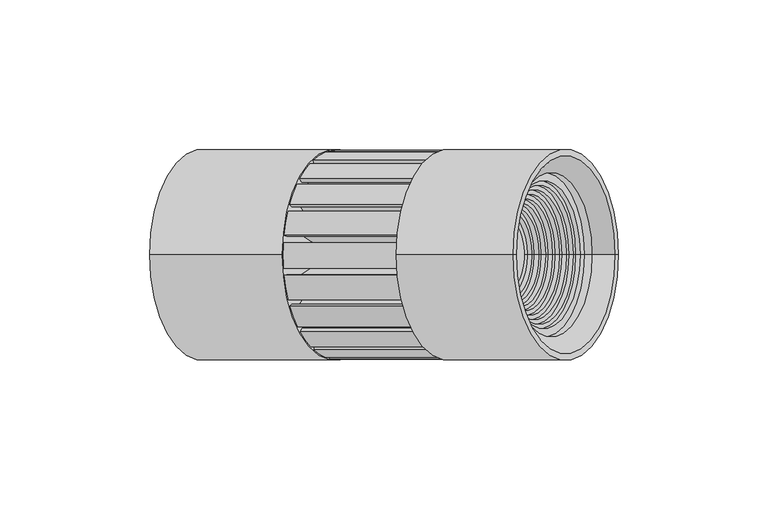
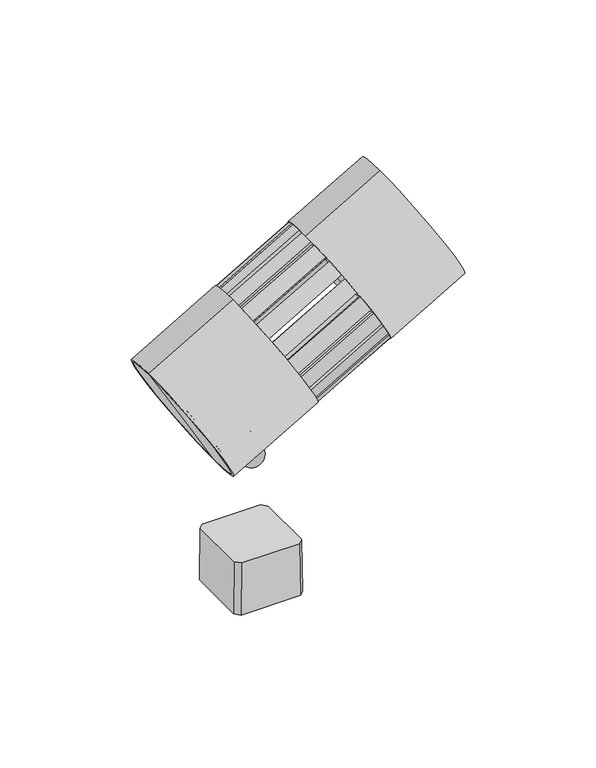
"""IFC4 building model written with IfcOpenShell, lengths in millimetres: light fixture geometry."""

from ifc_helpers import new_model, si_unit, point, frame, frame_2d, origin, place, context, project, spatial, polyline, circle_curve, ellipse_curve, trimmed, segment, composite_curve, outline, extrude, faceted_brep, source, transform, mapped, element, save
from ifc_brep_helpers import plane_surface, cylinder_surface, revolved_surface, advanced_brep


def light_fixture_c8fcb1c9(model_context):
    return source(origin(), model_context, "Body", "SolidModel", [
        extrude(outline(composite_curve([segment(trimmed(circle_curve(frame_2d((0.0, 11.9965379)), 11.9965379), [point((0.0, 23.9930758))], [point((0.0, 0.0))], False, "CARTESIAN"), True, "CONTINUOUS"), segment(trimmed(circle_curve(frame_2d((0.0, 11.9965379)), 11.9965379), [point((0.0, 0.0))], [point((0.0, 23.9930758))], False, "CARTESIAN"), True, "CONTINUOUS")], self_intersect=False)), frame((64.4792401, 11.9965379, 163.418171), z_axis=(0.8660254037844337, 0.0, 0.5000000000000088), x_axis=(-0.5000000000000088, 0.0, 0.8660254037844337)), (0.0, 0.0, 1.0), 1.1806849),
        advanced_brep(
        [(-0.1205623, 0.0, 85.6291855), (-5.4770877, 0.0, 82.5365941), (-10.833613, 0.0, 79.4440028), (1.0013247, 0.0, 83.6860202), (-9.711726, 0.0, 77.5008375), (0.5497837, 0.0, 82.0008463), (-8.0265522, 0.0, 77.0492965), (2.0678442, 0.0, 79.3714886), (-6.5084918, 0.0, 74.4199387), (5.9239898, 0.0, 70.492168), (-0.7468474, 0.0, 66.6407583), (2.5885712, 0.0, 68.5664632)],
        [
            (0, 1),
            (1, 2),
            (2, 0, circle_curve(frame((-5.4770877, 0.0, 82.5365941), z_axis=(-0.5000000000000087, 0.0, 0.8660254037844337), x_axis=(-0.8660254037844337, 0.0, -0.5000000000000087)), 6.1851827)),
            (0, 2, circle_curve(frame((-5.4770877, 0.0, 82.5365941), z_axis=(-0.5000000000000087, 0.0, 0.8660254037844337), x_axis=(-0.8660254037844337, 0.0, -0.5000000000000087)), 6.1851827)),
            (3, 0),
            (2, 4),
            (4, 3, circle_curve(frame((-4.3552007, 0.0, 80.5934288), z_axis=(-0.5000000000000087, 0.0, 0.8660254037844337), x_axis=(-0.8660254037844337, 0.0, -0.5000000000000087)), 6.1851827)),
            (3, 4, circle_curve(frame((-4.3552007, 0.0, 80.5934288), z_axis=(-0.5000000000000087, 0.0, 0.8660254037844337), x_axis=(-0.8660254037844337, 0.0, -0.5000000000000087)), 6.1851827)),
            (5, 3),
            (4, 6),
            (6, 5, circle_curve(frame((-3.7383842, 0.0, 79.5250714), z_axis=(-0.5000000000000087, 0.0, 0.8660254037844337), x_axis=(-0.8660254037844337, 0.0, -0.5000000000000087)), 4.9515499)),
            (5, 6, circle_curve(frame((-3.7383842, 0.0, 79.5250714), z_axis=(-0.5000000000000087, 0.0, 0.8660254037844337), x_axis=(-0.8660254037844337, 0.0, -0.5000000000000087)), 4.9515499)),
            (7, 5),
            (6, 8),
            (8, 7, circle_curve(frame((-2.2203238, 0.0, 76.8957136), z_axis=(-0.5000000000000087, 0.0, 0.8660254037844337), x_axis=(-0.8660254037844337, 0.0, -0.5000000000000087)), 4.9515499)),
            (7, 8, circle_curve(frame((-2.2203238, 0.0, 76.8957136), z_axis=(-0.5000000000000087, 0.0, 0.8660254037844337), x_axis=(-0.8660254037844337, 0.0, -0.5000000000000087)), 4.9515499)),
            (9, 7, circle_curve(frame((-0.4435917, 0.0, 73.0038213), z_axis=(0.0, -1.0, 0.0), x_axis=(-0.8660254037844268, 0.0, -0.5000000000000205)), 6.8450345)),
            (8, 10, circle_curve(frame((0.2617878, 0.0, 73.4110724), z_axis=(0.0, -1.0, 0.0), x_axis=(0.8660254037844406, 0.0, 0.4999999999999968)), 6.8450345)),
            (10, 9, circle_curve(frame((2.5885712, 0.0, 68.5664632), z_axis=(-0.5000000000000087, 0.0, 0.8660254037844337), x_axis=(-0.8660254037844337, 0.0, -0.5000000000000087)), 3.8514097)),
            (9, 10, circle_curve(frame((2.5885712, 0.0, 68.5664632), z_axis=(-0.5000000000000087, 0.0, 0.8660254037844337), x_axis=(-0.8660254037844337, 0.0, -0.5000000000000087)), 3.8514097)),
            (11, 9),
            (10, 11),
        ],
        [
            plane_surface(frame((-5.4770877, 0.0, 82.5365941), z_axis=(-0.5000000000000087, 0.0, 0.8660254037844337), x_axis=(-0.8660254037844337, 0.0, -0.5000000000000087))),
            cylinder_surface(frame((2.5885712, 0.0, 68.5664632), z_axis=(0.5000000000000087, 0.0, -0.8660254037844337), x_axis=(-0.8660254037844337, 0.0, -0.5000000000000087)), 6.1851827),
            revolved_surface(polyline([(-9.711726, 0.0, 77.5008375), (-8.0265522, 0.0, 77.0492965)]), (2.5885712, 0.0, 68.5664632), (0.5000000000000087, 0.0, -0.8660254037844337)),
            cylinder_surface(frame((2.5885712, 0.0, 68.5664632), z_axis=(0.5000000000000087, 0.0, -0.8660254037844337), x_axis=(-0.8660254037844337, 0.0, -0.5000000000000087)), 4.9515499),
            revolved_surface(trimmed(ellipse_curve(frame((0.2617878, 0.0, 73.4110724), z_axis=(0.0, -1.0, 0.0), x_axis=(0.8660254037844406, 0.0, 0.4999999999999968)), 6.8450345, 6.8450345), [point((-6.5084918, 0.0, 74.4199387))], [point((-0.7468474, 0.0, 66.6407583))], True, "CARTESIAN"), (2.5885712, 0.0, 68.5664632), (0.5000000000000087, 0.0, -0.8660254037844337)),
            plane_surface(frame((2.5885712, 0.0, 68.5664632), z_axis=(0.5000000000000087, 0.0, -0.8660254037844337), x_axis=(-0.8660254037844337, 0.0, -0.5000000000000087))),
        ],
        [
            (0, [[1, 2, 3]]),
            (0, [[-2, -1, 4]]),
            (1, [[5, -3, 6, 7]]),
            (1, [[-6, -4, -5, 8]]),
            (2, [[9, -7, 10, 11]]),
            (2, [[-10, -8, -9, 12]]),
            (3, [[13, -11, 14, 15]]),
            (3, [[-14, -12, -13, 16]]),
            (4, [[17, -15, 18, 19]]),
            (4, [[-18, -16, -17, 20]]),
            (5, [[21, -19, 22]]),
            (5, [[-22, -20, -21]]),
        ],
    ),
        advanced_brep(
        [(-53.6008861, 0.0, 136.0003187), (-53.0282014, 0.0, 135.0083997), (-18.8780643, 0.0, 75.8586272), (-18.3053796, 0.0, 74.8667082), (-9.4335905, 0.0, 161.5003187), (25.861916, 0.0, 100.3667082), (8.2141627, 0.0, 130.9335135), (-52.6335161, 0.0, 134.3247847), (-35.9531328, 0.0, 105.4335135), (-19.2727496, 0.0, 76.5422422), (-51.5942856, 0.0, 134.9247847), (-18.2335191, 0.0, 77.1422422), (-51.9889709, 0.0, 135.6083997), (-17.8388338, 0.0, 76.4586272)],
        [
            (0, 1),
            (1, 2, circle_curve(frame((-35.9531328, 0.0, 105.4335135), z_axis=(0.8660254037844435, 0.0, 0.49999999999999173), x_axis=(0.49999999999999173, 0.0, -0.8660254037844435)), 34.1501371)),
            (2, 3),
            (3, 0, circle_curve(frame((-35.9531328, 0.0, 105.4335135), z_axis=(-0.8660254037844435, 0.0, -0.49999999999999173), x_axis=(0.49999999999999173, 0.0, -0.8660254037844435)), 35.2955065)),
            (2, 1, circle_curve(frame((-35.9531328, 0.0, 105.4335135), z_axis=(0.8660254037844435, 0.0, 0.49999999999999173), x_axis=(0.49999999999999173, 0.0, -0.8660254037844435)), 34.1501371)),
            (0, 3, circle_curve(frame((-35.9531328, 0.0, 105.4335135), z_axis=(-0.8660254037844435, 0.0, -0.49999999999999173), x_axis=(0.49999999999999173, 0.0, -0.8660254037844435)), 35.2955065)),
            (4, 0),
            (3, 5),
            (5, 4, circle_curve(frame((8.2141627, 0.0, 130.9335135), z_axis=(-0.8660254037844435, 0.0, -0.49999999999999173), x_axis=(0.49999999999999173, 0.0, -0.8660254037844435)), 35.2955065)),
            (4, 5, circle_curve(frame((8.2141627, 0.0, 130.9335135), z_axis=(-0.8660254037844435, 0.0, -0.49999999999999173), x_axis=(0.49999999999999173, 0.0, -0.8660254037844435)), 35.2955065)),
            (6, 4),
            (5, 6),
            (7, 8),
            (8, 9),
            (9, 7, circle_curve(frame((-35.9531328, 0.0, 105.4335135), z_axis=(-0.8660254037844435, 0.0, -0.49999999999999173), x_axis=(0.49999999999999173, 0.0, -0.8660254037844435)), 33.3607665)),
            (7, 9, circle_curve(frame((-35.9531328, 0.0, 105.4335135), z_axis=(-0.8660254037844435, 0.0, -0.49999999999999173), x_axis=(0.49999999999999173, 0.0, -0.8660254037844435)), 33.3607665)),
            (10, 7),
            (9, 11),
            (11, 10, circle_curve(frame((-34.9139024, 0.0, 106.0335135), z_axis=(-0.8660254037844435, 0.0, -0.49999999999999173), x_axis=(0.49999999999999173, 0.0, -0.8660254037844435)), 33.3607665)),
            (10, 11, circle_curve(frame((-34.9139024, 0.0, 106.0335135), z_axis=(-0.8660254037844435, 0.0, -0.49999999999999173), x_axis=(0.49999999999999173, 0.0, -0.8660254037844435)), 33.3607665)),
            (12, 10),
            (11, 13),
            (13, 12, circle_curve(frame((-34.9139024, 0.0, 106.0335135), z_axis=(-0.8660254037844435, 0.0, -0.49999999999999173), x_axis=(0.49999999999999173, 0.0, -0.8660254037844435)), 34.1501371)),
            (12, 13, circle_curve(frame((-34.9139024, 0.0, 106.0335135), z_axis=(-0.8660254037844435, 0.0, -0.49999999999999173), x_axis=(0.49999999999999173, 0.0, -0.8660254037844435)), 34.1501371)),
            (1, 12),
            (13, 2),
        ],
        [
            plane_surface(frame((-35.9531328, 0.0, 105.4335135), z_axis=(-0.8660254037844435, 0.0, -0.49999999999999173), x_axis=(0.49999999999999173, 0.0, -0.8660254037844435))),
            cylinder_surface(frame((3.0180103, 0.0, 127.9335135), z_axis=(0.8660254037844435, 0.0, 0.49999999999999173), x_axis=(0.49999999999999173, 0.0, -0.8660254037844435)), 35.2955065),
            plane_surface(frame((8.2141627, 0.0, 130.9335135), z_axis=(0.8660254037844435, 0.0, 0.49999999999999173), x_axis=(0.49999999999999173, 0.0, -0.8660254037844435))),
            cylinder_surface(frame((3.0180103, 0.0, 127.9335135), z_axis=(0.8660254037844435, 0.0, 0.49999999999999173), x_axis=(0.49999999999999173, 0.0, -0.8660254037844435)), 33.3607665),
            plane_surface(frame((-34.9139024, 0.0, 106.0335135), z_axis=(-0.8660254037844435, 0.0, -0.49999999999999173), x_axis=(0.49999999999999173, 0.0, -0.8660254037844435))),
            revolved_surface(polyline([(-17.838833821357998, 0.0, 76.45862723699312), (-18.878064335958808, 0.0, 75.8586272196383)]), (3.0180103, 0.0, 127.9335135), (0.8660254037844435, 0.0, 0.49999999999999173)),
        ],
        [
            (0, [[1, 2, 3, 4]]),
            (0, [[-3, 5, -1, 6]]),
            (1, [[7, -4, 8, 9]]),
            (1, [[-8, -6, -7, 10]]),
            (2, [[11, -9, 12]]),
            (2, [[-12, -10, -11]]),
            (0, [[13, 14, 15]]),
            (0, [[-14, -13, 16]]),
            (3, [[17, -15, 18, 19]]),
            (3, [[-18, -16, -17, 20]]),
            (4, [[21, -19, 22, 23]]),
            (4, [[-22, -20, -21, 24]]),
            (5, [[25, -23, 26, -2]]),
            (5, [[-26, -24, -25, -5]]),
        ],
    ),
        advanced_brep(
        [(66.8062696, 0.0, 196.5490075), (68.819053, 0.0, 204.0608174), (101.8467108, 0.0, 146.855236), (94.3349009, 0.0, 148.8680194), (64.2081934, 0.0, 195.0490075), (91.7368247, 0.0, 147.3680194), (65.5683546, 0.0, 192.6931391), (90.3766634, 0.0, 149.7238878), (64.0095089, 0.0, 191.7931391), (88.8178177, 0.0, 148.8238878), (64.7595089, 0.0, 190.494101), (88.0678177, 0.0, 150.1229259), (63.2006632, 0.0, 189.594101), (86.508972, 0.0, 149.2229259), (63.9506632, 0.0, 188.2950629), (85.758972, 0.0, 150.521964), (62.3918174, 0.0, 187.3950629), (84.2001262, 0.0, 149.621964), (63.1418174, 0.0, 186.0960248), (83.4501262, 0.0, 150.9210021), (61.5829717, 0.0, 185.1960248), (81.8912805, 0.0, 150.0210021), (62.3329717, 0.0, 183.8969867), (81.1412805, 0.0, 151.3200402), (60.774126, 0.0, 182.9969867), (79.5824348, 0.0, 150.4200402), (61.524126, 0.0, 181.6979486), (78.8324348, 0.0, 151.7190783), (59.9652803, 0.0, 180.7979486), (77.2735891, 0.0, 150.8190783), (60.7152803, 0.0, 179.4989105), (76.5235891, 0.0, 152.1181164), (59.1564345, 0.0, 178.5989105), (74.9647433, 0.0, 151.2181164), (59.9064345, 0.0, 177.2998724), (74.2147433, 0.0, 152.5171545), (58.3475888, 0.0, 176.3998724), (72.6558976, 0.0, 151.6171545), (59.5034742, 0.0, 174.3978201), (71.5000122, 0.0, 153.6192069), (51.2657455, 0.0, 163.4659848), (57.9139007, 0.0, 151.9510421), (54.5898231, 0.0, 157.7085135), (28.7139855, 0.0, 183.524832), (46.3617387, 0.0, 152.9580267), (64.009492, 0.0, 122.3912215), (67.6851287, 0.0, 206.024832), (102.9806352, 0.0, 144.8912215)],
        [
            (0, 1),
            (1, 2, circle_curve(frame((85.3328819, 0.0, 175.4580267), z_axis=(0.8660254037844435, 0.0, 0.49999999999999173), x_axis=(0.49999999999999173, 0.0, -0.8660254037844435)), 33.0276578)),
            (2, 3),
            (3, 0, circle_curve(frame((80.5705852, 0.0, 172.7085135), z_axis=(-0.8660254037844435, 0.0, -0.49999999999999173), x_axis=(0.49999999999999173, 0.0, -0.8660254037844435)), 27.5286313)),
            (2, 1, circle_curve(frame((85.3328819, 0.0, 175.4580267), z_axis=(0.8660254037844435, 0.0, 0.49999999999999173), x_axis=(0.49999999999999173, 0.0, -0.8660254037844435)), 33.0276578)),
            (0, 3, circle_curve(frame((80.5705852, 0.0, 172.7085135), z_axis=(-0.8660254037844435, 0.0, -0.49999999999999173), x_axis=(0.49999999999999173, 0.0, -0.8660254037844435)), 27.5286313)),
            (4, 0),
            (3, 5),
            (5, 4, circle_curve(frame((77.972509, 0.0, 171.2085135), z_axis=(-0.8660254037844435, 0.0, -0.49999999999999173), x_axis=(0.49999999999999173, 0.0, -0.8660254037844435)), 27.5286313)),
            (4, 5, circle_curve(frame((77.972509, 0.0, 171.2085135), z_axis=(-0.8660254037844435, 0.0, -0.49999999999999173), x_axis=(0.49999999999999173, 0.0, -0.8660254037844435)), 27.5286313)),
            (6, 4),
            (5, 7),
            (7, 6, circle_curve(frame((77.972509, 0.0, 171.2085135), z_axis=(-0.8660254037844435, 0.0, -0.49999999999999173), x_axis=(0.49999999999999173, 0.0, -0.8660254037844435)), 24.8083088)),
            (6, 7, circle_curve(frame((77.972509, 0.0, 171.2085135), z_axis=(-0.8660254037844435, 0.0, -0.49999999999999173), x_axis=(0.49999999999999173, 0.0, -0.8660254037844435)), 24.8083088)),
            (8, 6),
            (7, 9),
            (9, 8, circle_curve(frame((76.4136633, 0.0, 170.3085135), z_axis=(-0.8660254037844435, 0.0, -0.49999999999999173), x_axis=(0.49999999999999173, 0.0, -0.8660254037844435)), 24.8083088)),
            (8, 9, circle_curve(frame((76.4136633, 0.0, 170.3085135), z_axis=(-0.8660254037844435, 0.0, -0.49999999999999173), x_axis=(0.49999999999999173, 0.0, -0.8660254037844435)), 24.8083088)),
            (10, 8),
            (9, 11),
            (11, 10, circle_curve(frame((76.4136633, 0.0, 170.3085135), z_axis=(-0.8660254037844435, 0.0, -0.49999999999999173), x_axis=(0.49999999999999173, 0.0, -0.8660254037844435)), 23.3083088)),
            (10, 11, circle_curve(frame((76.4136633, 0.0, 170.3085135), z_axis=(-0.8660254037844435, 0.0, -0.49999999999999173), x_axis=(0.49999999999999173, 0.0, -0.8660254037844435)), 23.3083088)),
            (12, 10),
            (11, 13),
            (13, 12, circle_curve(frame((74.8548176, 0.0, 169.4085135), z_axis=(-0.8660254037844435, 0.0, -0.49999999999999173), x_axis=(0.49999999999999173, 0.0, -0.8660254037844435)), 23.3083088)),
            (12, 13, circle_curve(frame((74.8548176, 0.0, 169.4085135), z_axis=(-0.8660254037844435, 0.0, -0.49999999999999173), x_axis=(0.49999999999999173, 0.0, -0.8660254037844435)), 23.3083088)),
            (14, 12),
            (13, 15),
            (15, 14, circle_curve(frame((74.8548176, 0.0, 169.4085135), z_axis=(-0.8660254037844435, 0.0, -0.49999999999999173), x_axis=(0.49999999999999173, 0.0, -0.8660254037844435)), 21.8083088)),
            (14, 15, circle_curve(frame((74.8548176, 0.0, 169.4085135), z_axis=(-0.8660254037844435, 0.0, -0.49999999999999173), x_axis=(0.49999999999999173, 0.0, -0.8660254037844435)), 21.8083088)),
            (16, 14),
            (15, 17),
            (17, 16, circle_curve(frame((73.2959718, 0.0, 168.5085135), z_axis=(-0.8660254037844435, 0.0, -0.49999999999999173), x_axis=(0.49999999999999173, 0.0, -0.8660254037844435)), 21.8083088)),
            (16, 17, circle_curve(frame((73.2959718, 0.0, 168.5085135), z_axis=(-0.8660254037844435, 0.0, -0.49999999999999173), x_axis=(0.49999999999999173, 0.0, -0.8660254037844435)), 21.8083088)),
            (18, 16),
            (17, 19),
            (19, 18, circle_curve(frame((73.2959718, 0.0, 168.5085135), z_axis=(-0.8660254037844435, 0.0, -0.49999999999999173), x_axis=(0.49999999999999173, 0.0, -0.8660254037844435)), 20.3083088)),
            (18, 19, circle_curve(frame((73.2959718, 0.0, 168.5085135), z_axis=(-0.8660254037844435, 0.0, -0.49999999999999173), x_axis=(0.49999999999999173, 0.0, -0.8660254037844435)), 20.3083088)),
            (20, 18),
            (19, 21),
            (21, 20, circle_curve(frame((71.7371261, 0.0, 167.6085135), z_axis=(-0.8660254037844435, 0.0, -0.49999999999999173), x_axis=(0.49999999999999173, 0.0, -0.8660254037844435)), 20.3083088)),
            (20, 21, circle_curve(frame((71.7371261, 0.0, 167.6085135), z_axis=(-0.8660254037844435, 0.0, -0.49999999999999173), x_axis=(0.49999999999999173, 0.0, -0.8660254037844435)), 20.3083088)),
            (22, 20),
            (21, 23),
            (23, 22, circle_curve(frame((71.7371261, 0.0, 167.6085135), z_axis=(-0.8660254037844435, 0.0, -0.49999999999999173), x_axis=(0.49999999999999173, 0.0, -0.8660254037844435)), 18.8083088)),
            (22, 23, circle_curve(frame((71.7371261, 0.0, 167.6085135), z_axis=(-0.8660254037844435, 0.0, -0.49999999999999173), x_axis=(0.49999999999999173, 0.0, -0.8660254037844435)), 18.8083088)),
            (24, 22),
            (23, 25),
            (25, 24, circle_curve(frame((70.1782804, 0.0, 166.7085135), z_axis=(-0.8660254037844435, 0.0, -0.49999999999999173), x_axis=(0.49999999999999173, 0.0, -0.8660254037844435)), 18.8083088)),
            (24, 25, circle_curve(frame((70.1782804, 0.0, 166.7085135), z_axis=(-0.8660254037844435, 0.0, -0.49999999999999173), x_axis=(0.49999999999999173, 0.0, -0.8660254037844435)), 18.8083088)),
            (26, 24),
            (25, 27),
            (27, 26, circle_curve(frame((70.1782804, 0.0, 166.7085135), z_axis=(-0.8660254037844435, 0.0, -0.49999999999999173), x_axis=(0.49999999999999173, 0.0, -0.8660254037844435)), 17.3083088)),
            (26, 27, circle_curve(frame((70.1782804, 0.0, 166.7085135), z_axis=(-0.8660254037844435, 0.0, -0.49999999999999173), x_axis=(0.49999999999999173, 0.0, -0.8660254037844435)), 17.3083088)),
            (28, 26),
            (27, 29),
            (29, 28, circle_curve(frame((68.6194347, 0.0, 165.8085135), z_axis=(-0.8660254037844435, 0.0, -0.49999999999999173), x_axis=(0.49999999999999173, 0.0, -0.8660254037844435)), 17.3083088)),
            (28, 29, circle_curve(frame((68.6194347, 0.0, 165.8085135), z_axis=(-0.8660254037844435, 0.0, -0.49999999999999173), x_axis=(0.49999999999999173, 0.0, -0.8660254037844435)), 17.3083088)),
            (30, 28),
            (29, 31),
            (31, 30, circle_curve(frame((68.6194347, 0.0, 165.8085135), z_axis=(-0.8660254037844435, 0.0, -0.49999999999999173), x_axis=(0.49999999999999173, 0.0, -0.8660254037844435)), 15.8083088)),
            (30, 31, circle_curve(frame((68.6194347, 0.0, 165.8085135), z_axis=(-0.8660254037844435, 0.0, -0.49999999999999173), x_axis=(0.49999999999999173, 0.0, -0.8660254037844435)), 15.8083088)),
            (32, 30),
            (31, 33),
            (33, 32, circle_curve(frame((67.0605889, 0.0, 164.9085135), z_axis=(-0.8660254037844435, 0.0, -0.49999999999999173), x_axis=(0.49999999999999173, 0.0, -0.8660254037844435)), 15.8083088)),
            (32, 33, circle_curve(frame((67.0605889, 0.0, 164.9085135), z_axis=(-0.8660254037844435, 0.0, -0.49999999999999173), x_axis=(0.49999999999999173, 0.0, -0.8660254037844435)), 15.8083088)),
            (34, 32),
            (33, 35),
            (35, 34, circle_curve(frame((67.0605889, 0.0, 164.9085135), z_axis=(-0.8660254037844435, 0.0, -0.49999999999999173), x_axis=(0.49999999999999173, 0.0, -0.8660254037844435)), 14.3083088)),
            (34, 35, circle_curve(frame((67.0605889, 0.0, 164.9085135), z_axis=(-0.8660254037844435, 0.0, -0.49999999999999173), x_axis=(0.49999999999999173, 0.0, -0.8660254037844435)), 14.3083088)),
            (36, 34),
            (35, 37),
            (37, 36, circle_curve(frame((65.5017432, 0.0, 164.0085135), z_axis=(-0.8660254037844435, 0.0, -0.49999999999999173), x_axis=(0.49999999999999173, 0.0, -0.8660254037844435)), 14.3083088)),
            (36, 37, circle_curve(frame((65.5017432, 0.0, 164.0085135), z_axis=(-0.8660254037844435, 0.0, -0.49999999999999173), x_axis=(0.49999999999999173, 0.0, -0.8660254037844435)), 14.3083088)),
            (38, 36),
            (37, 39),
            (39, 38, circle_curve(frame((65.5017432, 0.0, 164.0085135), z_axis=(-0.8660254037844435, 0.0, -0.49999999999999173), x_axis=(0.49999999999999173, 0.0, -0.8660254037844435)), 11.9965379)),
            (38, 39, circle_curve(frame((65.5017432, 0.0, 164.0085135), z_axis=(-0.8660254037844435, 0.0, -0.49999999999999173), x_axis=(0.49999999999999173, 0.0, -0.8660254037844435)), 11.9965379)),
            (40, 38, circle_curve(frame((103.820483, 0.0, 132.4328541), z_axis=(0.0, 1.0, 0.0), x_axis=(0.8660254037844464, 0.0, 0.4999999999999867)), 61.0332338)),
            (39, 41, circle_curve(frame((57.3157899, 0.0, 212.9813452), z_axis=(0.0, 1.0, 0.0), x_axis=(0.8660254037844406, 0.0, 0.4999999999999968)), 61.0332338)),
            (41, 40, circle_curve(frame((54.5898231, 0.0, 157.7085135), z_axis=(-0.8660254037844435, 0.0, -0.49999999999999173), x_axis=(0.49999999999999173, 0.0, -0.8660254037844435)), 6.6481552)),
            (40, 41, circle_curve(frame((54.5898231, 0.0, 157.7085135), z_axis=(-0.8660254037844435, 0.0, -0.49999999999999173), x_axis=(0.49999999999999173, 0.0, -0.8660254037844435)), 6.6481552)),
            (42, 40),
            (41, 42),
            (43, 44),
            (44, 45),
            (45, 43, circle_curve(frame((46.3617387, 0.0, 152.9580267), z_axis=(-0.8660254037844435, 0.0, -0.49999999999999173), x_axis=(0.49999999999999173, 0.0, -0.8660254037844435)), 35.2955065)),
            (43, 45, circle_curve(frame((46.3617387, 0.0, 152.9580267), z_axis=(-0.8660254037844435, 0.0, -0.49999999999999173), x_axis=(0.49999999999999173, 0.0, -0.8660254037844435)), 35.2955065)),
            (46, 43),
            (45, 47),
            (47, 46, circle_curve(frame((85.3328819, 0.0, 175.4580267), z_axis=(-0.8660254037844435, 0.0, -0.49999999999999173), x_axis=(0.49999999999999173, 0.0, -0.8660254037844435)), 35.2955065)),
            (46, 47, circle_curve(frame((85.3328819, 0.0, 175.4580267), z_axis=(-0.8660254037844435, 0.0, -0.49999999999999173), x_axis=(0.49999999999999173, 0.0, -0.8660254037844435)), 35.2955065)),
            (1, 46),
            (47, 2),
        ],
        [
            revolved_surface(polyline([(101.8467108, 0.0, 146.855236), (94.3349009, 0.0, 148.8680194)]), (3.0180103, 0.0, 127.9335135), (0.8660254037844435, 0.0, 0.49999999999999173)),
            revolved_surface(polyline([(94.33490087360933, 0.0, 148.86801947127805), (91.736824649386, 0.0, 147.36801946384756)]), (3.0180103, 0.0, 127.9335135), (0.8660254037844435, 0.0, 0.49999999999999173)),
            plane_surface(frame((77.972509, 0.0, 171.2085135), z_axis=(0.8660254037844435, 0.0, 0.49999999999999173), x_axis=(0.49999999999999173, 0.0, -0.8660254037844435))),
            revolved_surface(polyline([(90.37666339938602, 0.0, 149.72388785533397), (88.8178176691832, 0.0, 148.8238878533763)]), (3.0180103, 0.0, 127.9335135), (0.8660254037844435, 0.0, 0.49999999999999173)),
            plane_surface(frame((76.4136633, 0.0, 170.3085135), z_axis=(0.8660254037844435, 0.0, 0.49999999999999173), x_axis=(0.49999999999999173, 0.0, -0.8660254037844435))),
            revolved_surface(polyline([(88.06781769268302, 0.0, 150.12292597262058), (86.50897196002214, 0.0, 149.22292596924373)]), (3.0180103, 0.0, 127.9335135), (0.8660254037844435, 0.0, 0.49999999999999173)),
            plane_surface(frame((74.8548176, 0.0, 169.4085135), z_axis=(0.8660254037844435, 0.0, 0.49999999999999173), x_axis=(0.49999999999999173, 0.0, -0.8660254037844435))),
            revolved_surface(polyline([(85.75897198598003, 0.0, 150.5219640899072), (84.20012617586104, 0.0, 149.6219640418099)]), (3.0180103, 0.0, 127.9335135), (0.8660254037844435, 0.0, 0.49999999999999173)),
            plane_surface(frame((73.2959718, 0.0, 168.5085135), z_axis=(0.8660254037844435, 0.0, 0.49999999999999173), x_axis=(0.49999999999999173, 0.0, -0.8660254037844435))),
            revolved_surface(polyline([(83.45012620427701, 0.0, 150.92100216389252), (81.89128046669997, 0.0, 150.02100215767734)]), (3.0180103, 0.0, 127.9335135), (0.8660254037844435, 0.0, 0.49999999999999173)),
            plane_surface(frame((71.7371261, 0.0, 167.6085135), z_axis=(0.8660254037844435, 0.0, 0.49999999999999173), x_axis=(0.49999999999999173, 0.0, -0.8660254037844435))),
            revolved_surface(polyline([(81.14128049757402, 0.0, 151.32004028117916), (79.58243475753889, 0.0, 150.4200402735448)]), (3.0180103, 0.0, 127.9335135), (0.8660254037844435, 0.0, 0.49999999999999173)),
            plane_surface(frame((70.1782804, 0.0, 166.7085135), z_axis=(0.8660254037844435, 0.0, 0.49999999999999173), x_axis=(0.49999999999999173, 0.0, -0.8660254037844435))),
            revolved_surface(polyline([(78.83243479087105, 0.0, 151.71907839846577), (77.27358904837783, 0.0, 150.81907838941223)]), (3.0180103, 0.0, 127.9335135), (0.8660254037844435, 0.0, 0.49999999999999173)),
            plane_surface(frame((68.6194347, 0.0, 165.8085135), z_axis=(0.8660254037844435, 0.0, 0.49999999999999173), x_axis=(0.49999999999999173, 0.0, -0.8660254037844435))),
            revolved_surface(polyline([(76.52358908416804, 0.0, 152.11811651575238), (74.96474326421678, 0.0, 151.2181164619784)]), (3.0180103, 0.0, 127.9335135), (0.8660254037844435, 0.0, 0.49999999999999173)),
            plane_surface(frame((67.0605889, 0.0, 164.9085135), z_axis=(0.8660254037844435, 0.0, 0.49999999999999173), x_axis=(0.49999999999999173, 0.0, -0.8660254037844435))),
            revolved_surface(polyline([(74.21474330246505, 0.0, 152.51715458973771), (72.6558975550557, 0.0, 151.61715457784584)]), (3.0180103, 0.0, 127.9335135), (0.8660254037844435, 0.0, 0.49999999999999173)),
            plane_surface(frame((65.5017432, 0.0, 164.0085135), z_axis=(0.8660254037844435, 0.0, 0.49999999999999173), x_axis=(0.49999999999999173, 0.0, -0.8660254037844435))),
            revolved_surface(trimmed(ellipse_curve(frame((57.3157899, 0.0, 212.9813452), z_axis=(0.0, 1.0, 0.0), x_axis=(0.8660254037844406, 0.0, 0.4999999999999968)), 61.0332338, 61.0332338), [point((71.5000122, 0.0, 153.6192069))], [point((57.9139007, 0.0, 151.9510421))], True, "CARTESIAN"), (3.0180103, 0.0, 127.9335135), (0.8660254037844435, 0.0, 0.49999999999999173)),
            plane_surface(frame((54.5898231, 0.0, 157.7085135), z_axis=(0.8660254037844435, 0.0, 0.49999999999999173), x_axis=(0.49999999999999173, 0.0, -0.8660254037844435))),
            plane_surface(frame((46.3617387, 0.0, 152.9580267), z_axis=(-0.8660254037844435, 0.0, -0.49999999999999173), x_axis=(0.49999999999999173, 0.0, -0.8660254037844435))),
            cylinder_surface(frame((3.0180103, 0.0, 127.9335135), z_axis=(0.8660254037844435, 0.0, 0.49999999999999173), x_axis=(0.49999999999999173, 0.0, -0.8660254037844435)), 35.2955065),
            plane_surface(frame((85.3328819, 0.0, 175.4580267), z_axis=(0.8660254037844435, 0.0, 0.49999999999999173), x_axis=(0.49999999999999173, 0.0, -0.8660254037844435))),
        ],
        [
            (0, [[1, 2, 3, 4]]),
            (0, [[-3, 5, -1, 6]]),
            (1, [[7, -4, 8, 9]]),
            (1, [[-8, -6, -7, 10]]),
            (2, [[11, -9, 12, 13]]),
            (2, [[-12, -10, -11, 14]]),
            (3, [[15, -13, 16, 17]]),
            (3, [[-16, -14, -15, 18]]),
            (4, [[19, -17, 20, 21]]),
            (4, [[-20, -18, -19, 22]]),
            (5, [[23, -21, 24, 25]]),
            (5, [[-24, -22, -23, 26]]),
            (6, [[27, -25, 28, 29]]),
            (6, [[-28, -26, -27, 30]]),
            (7, [[31, -29, 32, 33]]),
            (7, [[-32, -30, -31, 34]]),
            (8, [[35, -33, 36, 37]]),
            (8, [[-36, -34, -35, 38]]),
            (9, [[39, -37, 40, 41]]),
            (9, [[-40, -38, -39, 42]]),
            (10, [[43, -41, 44, 45]]),
            (10, [[-44, -42, -43, 46]]),
            (11, [[47, -45, 48, 49]]),
            (11, [[-48, -46, -47, 50]]),
            (12, [[51, -49, 52, 53]]),
            (12, [[-52, -50, -51, 54]]),
            (13, [[55, -53, 56, 57]]),
            (13, [[-56, -54, -55, 58]]),
            (14, [[59, -57, 60, 61]]),
            (14, [[-60, -58, -59, 62]]),
            (15, [[63, -61, 64, 65]]),
            (15, [[-64, -62, -63, 66]]),
            (16, [[67, -65, 68, 69]]),
            (16, [[-68, -66, -67, 70]]),
            (17, [[71, -69, 72, 73]]),
            (17, [[-72, -70, -71, 74]]),
            (18, [[75, -73, 76, 77]]),
            (18, [[-76, -74, -75, 78]]),
            (19, [[79, -77, 80, 81]]),
            (19, [[-80, -78, -79, 82]]),
            (20, [[83, -81, 84]]),
            (20, [[-84, -82, -83]]),
            (21, [[85, 86, 87]]),
            (21, [[-86, -85, 88]]),
            (22, [[89, -87, 90, 91]]),
            (22, [[-90, -88, -89, 92]]),
            (23, [[93, -91, 94, -2]]),
            (23, [[-94, -92, -93, -5]]),
        ],
    ),
        extrude(outline(composite_curve([segment(trimmed(circle_curve(frame_2d((0.0, -33.3375)), 33.3375), [point((0.7937501, -66.6655493))], [point((4.2094433, -66.4081742))], True, "CARTESIAN"), True, "CONTINUOUS"), segment(polyline([(4.2094433, -66.4081742), (4.4778878, -67.9742456)]), True, "CONTINUOUS"), segment(trimmed(circle_curve(frame_2d((0.0, -33.3375)), 34.925), [point((4.4778878, -67.9742456))], [point((-4.000665, -68.0326049))], False, "CARTESIAN"), True, "CONTINUOUS"), segment(polyline([(-4.000665, -68.0326049), (-3.7293278, -66.465751)]), True, "CONTINUOUS"), segment(trimmed(circle_curve(frame_2d((0.0, -33.3375)), 33.3375), [point((-3.7293278, -66.465751))], [point((-0.79375, -66.6655492))], True, "CARTESIAN"), True, "CONTINUOUS"), segment(polyline([(-0.79375, -66.6655492), (-0.79375, -48.1355789), (0.79375, -48.1355789), (0.7937501, -66.6655493)]), True, "CONTINUOUS")], self_intersect=False)), frame((-1.5687708, 26.970604, 147.8780514), z_axis=(0.866025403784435, 0.0, 0.5000000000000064), x_axis=(0.40450849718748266, 0.5877852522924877, -0.7006292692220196)), (0.0, 0.0, 1.0), 44.0490265),
        extrude(outline(composite_curve([segment(trimmed(circle_curve(frame_2d((1e-07, -33.3375)), 33.3375), [point((0.7937501, -66.6655493))], [point((4.2094433, -66.4081742))], True, "CARTESIAN"), True, "CONTINUOUS"), segment(polyline([(4.2094433, -66.4081742), (4.4778878, -67.9742456)]), True, "CONTINUOUS"), segment(trimmed(circle_curve(frame_2d((1e-07, -33.3375)), 34.925), [point((4.4778878, -67.9742456))], [point((-4.0006649, -68.0326048))], False, "CARTESIAN"), True, "CONTINUOUS"), segment(polyline([(-4.0006649, -68.0326048), (-3.7293278, -66.465751)]), True, "CONTINUOUS"), segment(trimmed(circle_curve(frame_2d((1e-07, -33.3375)), 33.3375), [point((-3.7293278, -66.465751))], [point((-0.79375, -66.6655493))], True, "CARTESIAN"), True, "CONTINUOUS"), segment(polyline([(-0.79375, -66.6655493), (-0.79375, -48.1355789), (0.7937501, -48.1355789), (0.7937501, -66.6655493)]), True, "CONTINUOUS")], self_intersect=False)), frame((-5.2564274, 19.5952908, 154.26526), z_axis=(0.8660254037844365, 0.0, 0.5000000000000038), x_axis=(0.2938926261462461, 0.8090169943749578, -0.5090369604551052)), (0.0, 0.0, 1.0), 44.0490265),
        extrude(outline(composite_curve([segment(trimmed(circle_curve(frame_2d((0.0, -33.3375)), 33.3375), [point((0.79375, -66.6655492))], [point((4.2094433, -66.4081742))], True, "CARTESIAN"), True, "CONTINUOUS"), segment(polyline([(4.2094433, -66.4081742), (4.4778878, -67.9742455)]), True, "CONTINUOUS"), segment(trimmed(circle_curve(frame_2d((0.0, -33.3375)), 34.925), [point((4.4778878, -67.9742455))], [point((-4.0006649, -68.0326049))], False, "CARTESIAN"), True, "CONTINUOUS"), segment(polyline([(-4.0006649, -68.0326049), (-3.7293278, -66.465751)]), True, "CONTINUOUS"), segment(trimmed(circle_curve(frame_2d((0.0, -33.3375)), 33.3375), [point((-3.7293278, -66.465751))], [point((-0.79375, -66.6655492))], True, "CARTESIAN"), True, "CONTINUOUS"), segment(polyline([(-0.79375, -66.6655492), (-0.79375, -48.1355789), (0.79375, -48.1355789), (0.79375, -66.6655492)]), True, "CONTINUOUS")], self_intersect=False)), frame((-7.6240487, 10.301854, 158.3661003), z_axis=(0.8660254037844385, 0.0, 0.5000000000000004), x_axis=(0.15450849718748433, 0.9510565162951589, -0.26761656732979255)), (0.0, 0.0, 1.0), 44.0490265),
        extrude(outline(composite_curve([segment(trimmed(circle_curve(frame_2d((0.0, -33.3375)), 33.3375), [point((0.79375, -66.6655493))], [point((4.2094433, -66.4081742))], True, "CARTESIAN"), True, "CONTINUOUS"), segment(polyline([(4.2094433, -66.4081742), (4.4778877, -67.9742456)]), True, "CONTINUOUS"), segment(trimmed(circle_curve(frame_2d((0.0, -33.3375)), 34.925), [point((4.4778877, -67.9742456))], [point((-4.000665, -68.0326049))], False, "CARTESIAN"), True, "CONTINUOUS"), segment(polyline([(-4.000665, -68.0326049), (-3.7293278, -66.4657511)]), True, "CONTINUOUS"), segment(trimmed(circle_curve(frame_2d((0.0, -33.3375)), 33.3375), [point((-3.7293278, -66.4657511))], [point((-0.79375, -66.6655493))], True, "CARTESIAN"), True, "CONTINUOUS"), segment(polyline([(-0.79375, -66.6655493), (-0.79375, -48.135579), (0.79375, -48.135579), (0.79375, -66.6655493)]), True, "CONTINUOUS")], self_intersect=False)), frame((-8.4398754, 0.0, 159.7791536), z_axis=(0.8660254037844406, 0.0, 0.4999999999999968), x_axis=(0.0, 1.0, 0.0)), (0.0, 0.0, 1.0), 44.0490265),
        extrude(outline(composite_curve([segment(trimmed(circle_curve(frame_2d((0.0, -33.3375)), 33.3375), [point((0.79375, -66.6655492))], [point((4.2094432, -66.4081742))], True, "CARTESIAN"), True, "CONTINUOUS"), segment(polyline([(4.2094432, -66.4081742), (4.4778877, -67.9742455)]), True, "CONTINUOUS"), segment(trimmed(circle_curve(frame_2d((0.0, -33.3375)), 34.925), [point((4.4778877, -67.9742455))], [point((-4.0006651, -68.0326049))], False, "CARTESIAN"), True, "CONTINUOUS"), segment(polyline([(-4.0006651, -68.0326049), (-3.7293279, -66.465751)]), True, "CONTINUOUS"), segment(trimmed(circle_curve(frame_2d((0.0, -33.3375)), 33.3375), [point((-3.7293279, -66.465751))], [point((-0.79375, -66.6655492))], True, "CARTESIAN"), True, "CONTINUOUS"), segment(polyline([(-0.79375, -66.6655492), (-0.79375, -48.1355789), (0.79375, -48.1355789), (0.79375, -66.6655492)]), True, "CONTINUOUS")], self_intersect=False)), frame((-7.6240487, -10.301854, 158.3661003), z_axis=(0.8660254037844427, 0.0, 0.499999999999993), x_axis=(-0.154508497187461, 0.9510565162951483, 0.2676165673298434)), (0.0, 0.0, 1.0), 44.0490265),
        extrude(outline(composite_curve([segment(trimmed(circle_curve(frame_2d((-1e-07, -33.3375)), 33.3375), [point((0.79375, -66.6655493))], [point((4.2094432, -66.4081742))], True, "CARTESIAN"), True, "CONTINUOUS"), segment(polyline([(4.2094432, -66.4081742), (4.4778876, -67.9742456)]), True, "CONTINUOUS"), segment(trimmed(circle_curve(frame_2d((-1e-07, -33.3375)), 34.925), [point((4.4778876, -67.9742456))], [point((-4.000665, -68.0326049))], False, "CARTESIAN"), True, "CONTINUOUS"), segment(polyline([(-4.000665, -68.0326049), (-3.7293279, -66.465751)]), True, "CONTINUOUS"), segment(trimmed(circle_curve(frame_2d((-1e-07, -33.3375)), 33.3375), [point((-3.7293279, -66.465751))], [point((-0.7937501, -66.6655493))], True, "CARTESIAN"), True, "CONTINUOUS"), segment(polyline([(-0.7937501, -66.6655493), (-0.7937501, -48.1355789), (0.79375, -48.1355789), (0.79375, -66.6655493)]), True, "CONTINUOUS")], self_intersect=False)), frame((-5.2564274, -19.5952908, 154.26526), z_axis=(0.8660254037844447, 0.0, 0.4999999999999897), x_axis=(-0.29389262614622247, 0.809016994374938, 0.5090369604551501)), (0.0, 0.0, 1.0), 44.0490265),
        extrude(outline(composite_curve([segment(trimmed(circle_curve(frame_2d((0.0, -33.3375)), 33.3375), [point((0.79375, -66.6655492))], [point((4.2094432, -66.4081742))], True, "CARTESIAN"), True, "CONTINUOUS"), segment(polyline([(4.2094432, -66.4081742), (4.4778877, -67.9742456)]), True, "CONTINUOUS"), segment(trimmed(circle_curve(frame_2d((0.0, -33.3375)), 34.925), [point((4.4778877, -67.9742456))], [point((-4.000665, -68.0326049))], False, "CARTESIAN"), True, "CONTINUOUS"), segment(polyline([(-4.000665, -68.0326049), (-3.7293279, -66.465751)]), True, "CONTINUOUS"), segment(trimmed(circle_curve(frame_2d((0.0, -33.3375)), 33.3375), [point((-3.7293279, -66.465751))], [point((-0.7937501, -66.6655493))], True, "CARTESIAN"), True, "CONTINUOUS"), segment(polyline([(-0.7937501, -66.6655493), (-0.79375, -48.1355789), (0.79375, -48.1355789), (0.79375, -66.6655492)]), True, "CONTINUOUS")], self_intersect=False)), frame((-1.5687708, -26.970604, 147.8780514), z_axis=(0.8660254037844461, 0.0, 0.499999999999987), x_axis=(-0.4045084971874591, 0.5877852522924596, 0.7006292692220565)), (0.0, 0.0, 1.0), 44.0490265),
        extrude(outline(composite_curve([segment(trimmed(circle_curve(frame_2d((0.0, -33.3375)), 33.3375), [point((0.79375, -66.6655493))], [point((4.2094433, -66.4081742))], True, "CARTESIAN"), True, "CONTINUOUS"), segment(polyline([(4.2094433, -66.4081742), (4.4778877, -67.9742456)]), True, "CONTINUOUS"), segment(trimmed(circle_curve(frame_2d((0.0, -33.3375)), 34.925), [point((4.4778877, -67.9742456))], [point((-4.000665, -68.0326049))], False, "CARTESIAN"), True, "CONTINUOUS"), segment(polyline([(-4.000665, -68.0326049), (-3.7293279, -66.4657511)]), True, "CONTINUOUS"), segment(trimmed(circle_curve(frame_2d((0.0, -33.3375)), 33.3375), [point((-3.7293279, -66.4657511))], [point((-0.79375, -66.6655493))], True, "CARTESIAN"), True, "CONTINUOUS"), segment(polyline([(-0.79375, -66.6655493), (-0.79375, -48.1355789), (0.79375, -48.1355789), (0.79375, -66.6655493)]), True, "CONTINUOUS")], self_intersect=False)), frame((3.0779476, -31.7058466, 139.829699), z_axis=(0.8660254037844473, 0.0, 0.4999999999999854), x_axis=(-0.47552825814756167, 0.3090169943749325, 0.8236391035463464)), (0.0, 0.0, 1.0), 44.0490265),
        extrude(outline(composite_curve([segment(trimmed(circle_curve(frame_2d((0.0, -33.3375)), 33.3375), [point((0.79375, -66.6655493))], [point((4.2094432, -66.4081742))], True, "CARTESIAN"), True, "CONTINUOUS"), segment(polyline([(4.2094432, -66.4081742), (4.4778878, -67.9742456)]), True, "CONTINUOUS"), segment(trimmed(circle_curve(frame_2d((0.0, -33.3375)), 34.925), [point((4.4778878, -67.9742456))], [point((-4.000665, -68.0326049))], False, "CARTESIAN"), True, "CONTINUOUS"), segment(polyline([(-4.000665, -68.0326049), (-3.7293278, -66.4657511)]), True, "CONTINUOUS"), segment(trimmed(circle_curve(frame_2d((0.0, -33.3375)), 33.3375), [point((-3.7293278, -66.4657511))], [point((-0.7937499, -66.6655493))], True, "CARTESIAN"), True, "CONTINUOUS"), segment(polyline([(-0.7937499, -66.6655493), (-0.7937499, -48.1355789), (0.79375, -48.1355789), (0.79375, -66.6655493)]), True, "CONTINUOUS")], self_intersect=False)), frame((8.2288746, -33.3375, 130.9080317), z_axis=(0.8660254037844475, 0.0, 0.4999999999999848), x_axis=(-0.4999999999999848, 0.0, 0.8660254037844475)), (0.0, 0.0, 1.0), 44.0490265),
        extrude(outline(composite_curve([segment(trimmed(circle_curve(frame_2d((0.0, -33.3375)), 33.3375), [point((0.79375, -66.6655493))], [point((4.2094433, -66.4081742))], True, "CARTESIAN"), True, "CONTINUOUS"), segment(polyline([(4.2094433, -66.4081742), (4.4778877, -67.9742456)]), True, "CONTINUOUS"), segment(trimmed(circle_curve(frame_2d((0.0, -33.3375)), 34.925), [point((4.4778877, -67.9742456))], [point((-4.000665, -68.0326049))], False, "CARTESIAN"), True, "CONTINUOUS"), segment(polyline([(-4.000665, -68.0326049), (-3.7293278, -66.4657511)]), True, "CONTINUOUS"), segment(trimmed(circle_curve(frame_2d((0.0, -33.3375)), 33.3375), [point((-3.7293278, -66.4657511))], [point((-0.79375, -66.6655493))], True, "CARTESIAN"), True, "CONTINUOUS"), segment(polyline([(-0.79375, -66.6655493), (-0.7937499, -48.1355789), (0.79375, -48.135579), (0.79375, -66.6655493)]), True, "CONTINUOUS")], self_intersect=False)), frame((13.3798017, -31.7058466, 121.9863644), z_axis=(0.8660254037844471, 0.0, 0.4999999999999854), x_axis=(-0.4755282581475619, -0.30901699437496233, 0.823639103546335)), (0.0, 0.0, 1.0), 44.0490265),
        extrude(outline(composite_curve([segment(trimmed(circle_curve(frame_2d((0.0, -33.3374999)), 33.3375), [point((0.79375, -66.6655492))], [point((4.2094433, -66.4081742))], True, "CARTESIAN"), True, "CONTINUOUS"), segment(polyline([(4.2094433, -66.4081742), (4.4778877, -67.9742456)]), True, "CONTINUOUS"), segment(trimmed(circle_curve(frame_2d((0.0, -33.3374999)), 34.925), [point((4.4778877, -67.9742456))], [point((-4.000665, -68.0326049))], False, "CARTESIAN"), True, "CONTINUOUS"), segment(polyline([(-4.000665, -68.0326049), (-3.7293278, -66.465751)]), True, "CONTINUOUS"), segment(trimmed(circle_curve(frame_2d((0.0, -33.3374999)), 33.3375), [point((-3.7293278, -66.465751))], [point((-0.79375, -66.6655492))], True, "CARTESIAN"), True, "CONTINUOUS"), segment(polyline([(-0.79375, -66.6655492), (-0.79375, -48.1355789), (0.79375, -48.1355789), (0.79375, -66.6655492)]), True, "CONTINUOUS")], self_intersect=False)), frame((18.0265201, -26.970604, 113.9380121), z_axis=(0.866025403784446, 0.0, 0.49999999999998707), x_axis=(-0.40450849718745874, -0.5877852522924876, 0.7006292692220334)), (0.0, 0.0, 1.0), 44.0490265),
        extrude(outline(composite_curve([segment(trimmed(circle_curve(frame_2d((0.0, -33.3375)), 33.3375), [point((0.79375, -66.6655492))], [point((4.2094432, -66.4081742))], True, "CARTESIAN"), True, "CONTINUOUS"), segment(polyline([(4.2094432, -66.4081742), (4.4778878, -67.9742456)]), True, "CONTINUOUS"), segment(trimmed(circle_curve(frame_2d((0.0, -33.3375)), 34.925), [point((4.4778878, -67.9742456))], [point((-4.0006649, -68.0326049))], False, "CARTESIAN"), True, "CONTINUOUS"), segment(polyline([(-4.0006649, -68.0326049), (-3.7293278, -66.4657511)]), True, "CONTINUOUS"), segment(trimmed(circle_curve(frame_2d((0.0, -33.3375)), 33.3375), [point((-3.7293278, -66.4657511))], [point((-0.79375, -66.6655492))], True, "CARTESIAN"), True, "CONTINUOUS"), segment(polyline([(-0.79375, -66.6655492), (-0.7937499, -48.1355789), (0.79375, -48.1355789), (0.79375, -66.6655492)]), True, "CONTINUOUS")], self_intersect=False)), frame((21.7141767, -19.5952908, 107.5508035), z_axis=(0.8660254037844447, 0.0, 0.4999999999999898), x_axis=(-0.2938926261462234, -0.809016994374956, 0.5090369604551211)), (0.0, 0.0, 1.0), 44.0490265),
        extrude(outline(composite_curve([segment(trimmed(circle_curve(frame_2d((0.0, -33.3375)), 33.3375), [point((0.79375, -66.6655492))], [point((4.2094433, -66.4081741))], True, "CARTESIAN"), True, "CONTINUOUS"), segment(polyline([(4.2094433, -66.4081741), (4.4778878, -67.9742456)]), True, "CONTINUOUS"), segment(trimmed(circle_curve(frame_2d((0.0, -33.3375)), 34.925), [point((4.4778878, -67.9742456))], [point((-4.0006649, -68.0326049))], False, "CARTESIAN"), True, "CONTINUOUS"), segment(polyline([(-4.0006649, -68.0326049), (-3.7293278, -66.465751)]), True, "CONTINUOUS"), segment(trimmed(circle_curve(frame_2d((0.0, -33.3375)), 33.3375), [point((-3.7293278, -66.465751))], [point((-0.7937499, -66.6655493))], True, "CARTESIAN"), True, "CONTINUOUS"), segment(polyline([(-0.7937499, -66.6655493), (-0.79375, -48.1355789), (0.79375, -48.1355789), (0.79375, -66.6655492)]), True, "CONTINUOUS")], self_intersect=False)), frame((24.0817979, -10.301854, 103.4499631), z_axis=(0.8660254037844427, 0.0, 0.49999999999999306), x_axis=(-0.15450849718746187, -0.951056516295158, 0.26761656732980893)), (0.0, 0.0, 1.0), 44.0490265),
        extrude(outline(composite_curve([segment(trimmed(circle_curve(frame_2d((0.0, -33.3375)), 33.3375), [point((0.79375, -66.6655492))], [point((4.2094433, -66.4081742))], True, "CARTESIAN"), True, "CONTINUOUS"), segment(polyline([(4.2094433, -66.4081742), (4.4778877, -67.9742456)]), True, "CONTINUOUS"), segment(trimmed(circle_curve(frame_2d((0.0, -33.3375)), 34.925), [point((4.4778877, -67.9742456))], [point((-4.000665, -68.0326049))], False, "CARTESIAN"), True, "CONTINUOUS"), segment(polyline([(-4.000665, -68.0326049), (-3.7293278, -66.465751)]), True, "CONTINUOUS"), segment(trimmed(circle_curve(frame_2d((0.0, -33.3375)), 33.3375), [point((-3.7293278, -66.465751))], [point((-0.79375, -66.6655492))], True, "CARTESIAN"), True, "CONTINUOUS"), segment(polyline([(-0.79375, -66.6655492), (-0.79375, -48.1355789), (0.79375, -48.1355789), (0.79375, -66.6655492)]), True, "CONTINUOUS")], self_intersect=False)), frame((24.8976246, 0.0, 102.0369098), z_axis=(0.8660254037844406, 0.0, 0.4999999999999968), x_axis=(0.0, -1.0, 0.0)), (0.0, 0.0, 1.0), 44.0490265),
        extrude(outline(composite_curve([segment(trimmed(circle_curve(frame_2d((0.0, -33.3375)), 33.3375), [point((0.7937499, -66.6655493))], [point((4.2094432, -66.4081742))], True, "CARTESIAN"), True, "CONTINUOUS"), segment(polyline([(4.2094432, -66.4081742), (4.4778877, -67.9742456)]), True, "CONTINUOUS"), segment(trimmed(circle_curve(frame_2d((0.0, -33.3375)), 34.925), [point((4.4778877, -67.9742456))], [point((-4.0006651, -68.0326049))], False, "CARTESIAN"), True, "CONTINUOUS"), segment(polyline([(-4.0006651, -68.0326049), (-3.7293279, -66.4657511)]), True, "CONTINUOUS"), segment(trimmed(circle_curve(frame_2d((0.0, -33.3375)), 33.3375), [point((-3.7293279, -66.4657511))], [point((-0.79375, -66.6655492))], True, "CARTESIAN"), True, "CONTINUOUS"), segment(polyline([(-0.79375, -66.6655492), (-0.79375, -48.1355789), (0.79375, -48.1355789), (0.7937499, -66.6655493)]), True, "CONTINUOUS")], self_intersect=False)), frame((24.0817979, 10.301854, 103.4499631), z_axis=(0.8660254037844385, 0.0, 0.5000000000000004), x_axis=(0.1545084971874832, -0.9510565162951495, -0.2676165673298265)), (0.0, 0.0, 1.0), 44.0490265),
        extrude(outline(composite_curve([segment(trimmed(circle_curve(frame_2d((0.0, -33.3375)), 33.3375), [point((0.79375, -66.6655492))], [point((4.2094432, -66.4081742))], True, "CARTESIAN"), True, "CONTINUOUS"), segment(polyline([(4.2094432, -66.4081742), (4.4778877, -67.9742455)]), True, "CONTINUOUS"), segment(trimmed(circle_curve(frame_2d((0.0, -33.3375)), 34.925), [point((4.4778877, -67.9742455))], [point((-4.0006651, -68.0326049))], False, "CARTESIAN"), True, "CONTINUOUS"), segment(polyline([(-4.0006651, -68.0326049), (-3.7293279, -66.4657511)]), True, "CONTINUOUS"), segment(trimmed(circle_curve(frame_2d((0.0, -33.3375)), 33.3375), [point((-3.7293279, -66.4657511))], [point((-0.79375, -66.6655492))], True, "CARTESIAN"), True, "CONTINUOUS"), segment(polyline([(-0.79375, -66.6655492), (-0.79375, -48.1355789), (0.7937499, -48.1355789), (0.79375, -66.6655492)]), True, "CONTINUOUS")], self_intersect=False)), frame((21.7141767, 19.5952908, 107.5508035), z_axis=(0.8660254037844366, 0.0, 0.5000000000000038), x_axis=(0.29389262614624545, -0.8090169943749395, -0.5090369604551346)), (0.0, 0.0, 1.0), 44.0490265),
        extrude(outline(composite_curve([segment(trimmed(circle_curve(frame_2d((0.0, -33.3374999)), 33.3375), [point((0.79375, -66.6655492))], [point((4.2094432, -66.4081742))], True, "CARTESIAN"), True, "CONTINUOUS"), segment(polyline([(4.2094432, -66.4081742), (4.4778877, -67.9742456)]), True, "CONTINUOUS"), segment(trimmed(circle_curve(frame_2d((0.0, -33.3374999)), 34.925), [point((4.4778877, -67.9742456))], [point((-4.000665, -68.0326048))], False, "CARTESIAN"), True, "CONTINUOUS"), segment(polyline([(-4.000665, -68.0326048), (-3.7293279, -66.465751)]), True, "CONTINUOUS"), segment(trimmed(circle_curve(frame_2d((0.0, -33.3374999)), 33.3375), [point((-3.7293279, -66.465751))], [point((-0.79375, -66.6655492))], True, "CARTESIAN"), True, "CONTINUOUS"), segment(polyline([(-0.79375, -66.6655492), (-0.79375, -48.1355789), (0.79375, -48.1355789), (0.79375, -66.6655492)]), True, "CONTINUOUS")], self_intersect=False)), frame((18.0265201, 26.970604, 113.9380121), z_axis=(0.866025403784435, 0.0, 0.5000000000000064), x_axis=(0.404508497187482, -0.5877852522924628, -0.7006292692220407)), (0.0, 0.0, 1.0), 44.0490265),
        extrude(outline(composite_curve([segment(trimmed(circle_curve(frame_2d((0.0, -33.3375)), 33.3375), [point((0.79375, -66.6655493))], [point((4.2094432, -66.4081742))], True, "CARTESIAN"), True, "CONTINUOUS"), segment(polyline([(4.2094432, -66.4081742), (4.4778877, -67.9742456)]), True, "CONTINUOUS"), segment(trimmed(circle_curve(frame_2d((0.0, -33.3375)), 34.925), [point((4.4778877, -67.9742456))], [point((-4.000665, -68.0326049))], False, "CARTESIAN"), True, "CONTINUOUS"), segment(polyline([(-4.000665, -68.0326049), (-3.7293279, -66.4657511)]), True, "CONTINUOUS"), segment(trimmed(circle_curve(frame_2d((0.0, -33.3375)), 33.3375), [point((-3.7293279, -66.4657511))], [point((-0.79375, -66.6655493))], True, "CARTESIAN"), True, "CONTINUOUS"), segment(polyline([(-0.79375, -66.6655493), (-0.79375, -48.135579), (0.7937499, -48.1355789), (0.79375, -66.6655493)]), True, "CONTINUOUS")], self_intersect=False)), frame((13.3798017, 31.7058466, 121.9863644), z_axis=(0.8660254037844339, 0.0, 0.5000000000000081), x_axis=(0.4755282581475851, -0.3090169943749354, -0.8236391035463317)), (0.0, 0.0, 1.0), 44.0490265),
        extrude(outline(composite_curve([segment(trimmed(circle_curve(frame_2d((0.0, -33.3375)), 33.3375), [point((0.79375, -66.6655493))], [point((4.2094433, -66.4081742))], True, "CARTESIAN"), True, "CONTINUOUS"), segment(polyline([(4.2094433, -66.4081742), (4.4778877, -67.9742456)]), True, "CONTINUOUS"), segment(trimmed(circle_curve(frame_2d((0.0, -33.3375)), 34.925), [point((4.4778877, -67.9742456))], [point((-4.000665, -68.0326049))], False, "CARTESIAN"), True, "CONTINUOUS"), segment(polyline([(-4.000665, -68.0326049), (-3.7293279, -66.4657511)]), True, "CONTINUOUS"), segment(trimmed(circle_curve(frame_2d((0.0, -33.3375)), 33.3375), [point((-3.7293279, -66.4657511))], [point((-0.79375, -66.6655493))], True, "CARTESIAN"), True, "CONTINUOUS"), segment(polyline([(-0.79375, -66.6655493), (-0.79375, -48.1355789), (0.79375, -48.1355789), (0.79375, -66.6655493)]), True, "CONTINUOUS")], self_intersect=False)), frame((3.0779476, 31.7058466, 139.829699), z_axis=(0.866025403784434, 0.0, 0.5000000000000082), x_axis=(0.47552825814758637, 0.3090169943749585, -0.8236391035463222)), (0.0, 0.0, 1.0), 44.0490265),
        extrude(outline(composite_curve([segment(trimmed(circle_curve(frame_2d((0.0, -33.3375)), 33.3375), [point((0.7937499, -66.6655493))], [point((4.2094433, -66.4081742))], True, "CARTESIAN"), True, "CONTINUOUS"), segment(polyline([(4.2094433, -66.4081742), (4.4778877, -67.9742456)]), True, "CONTINUOUS"), segment(trimmed(circle_curve(frame_2d((0.0, -33.3375)), 34.925), [point((4.4778877, -67.9742456))], [point((-4.000665, -68.0326049))], False, "CARTESIAN"), True, "CONTINUOUS"), segment(polyline([(-4.000665, -68.0326049), (-3.7293279, -66.4657511)]), True, "CONTINUOUS"), segment(trimmed(circle_curve(frame_2d((0.0, -33.3375)), 33.3375), [point((-3.7293279, -66.4657511))], [point((-0.79375, -66.6655493))], True, "CARTESIAN"), True, "CONTINUOUS"), segment(polyline([(-0.79375, -66.6655493), (-0.79375, -48.1355789), (0.7937499, -48.1355789), (0.7937499, -66.6655493)]), True, "CONTINUOUS")], self_intersect=False)), frame((8.2288746, 33.3375, 130.9080317), z_axis=(0.8660254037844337, 0.0, 0.5000000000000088), x_axis=(0.5000000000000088, 0.0, -0.8660254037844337)), (0.0, 0.0, 1.0), 44.0490265),
        faceted_brep([(17.7503164, -15.2502212, 28.6), (17.7503164, 15.2502212, 28.6), (15.2502212, 17.7505068, 28.6), (-15.2502212, 17.7505068, 28.6), (-17.7505068, 15.2504116, 28.6), (-17.7505068, -15.2500308, 28.6), (-15.2504116, -17.7503164, 28.6), (15.2500308, -17.7503164, 28.6), (17.9999048, -15.4998096, 0.0), (15.4996192, -17.9999048, 0.0), (-15.5, -17.9999048, 0.0), (-18.0000952, -15.4996192, 0.0), (-18.0000952, 15.5, 0.0), (-15.4998096, 18.0000952, 0.0), (15.4998096, 18.0000952, 0.0), (17.9999048, 15.4998096, 0.0)], [[[0, 1, 2, 3, 4, 5, 6, 7]], [[8, 9, 10, 11, 12, 13, 14, 15]], [[8, 15, 1, 0]], [[15, 14, 2, 1]], [[14, 13, 3, 2]], [[13, 12, 4, 3]], [[12, 11, 5, 4]], [[11, 10, 6, 5]], [[10, 9, 7, 6]], [[9, 8, 0, 7]]]),
    ])


if __name__ == "__main__":
    model = new_model("IFC4")
    model_context = context("Model", 3, world=origin())
    ifc_project = project(units=[si_unit("LENGTHUNIT", "METRE", prefix="MILLI")], contexts=[model_context])
    site = spatial("IfcSite", under=ifc_project)
    building = spatial("IfcBuilding", under=site)
    placement = place(None, origin())
    light_fixture_shape = light_fixture_c8fcb1c9(model_context)
    element("IfcLightFixture", 1, at=placement, inside=building, context=model_context, shape_type="MappedRepresentation", body=[
        mapped(light_fixture_shape, transform((0.0, 0.0, 0.0), x_axis=(1.0, 0.0, 0.0), y_axis=(0.0, 1.0, 0.0), z_axis=(0.0, 0.0, 1.0))),
    ])
    save(model, "model.ifc")
